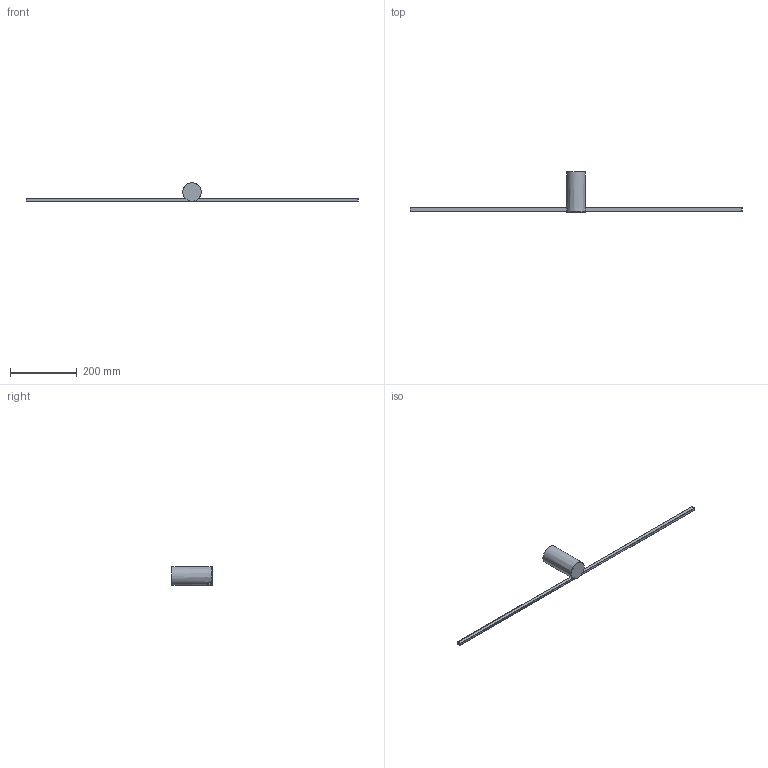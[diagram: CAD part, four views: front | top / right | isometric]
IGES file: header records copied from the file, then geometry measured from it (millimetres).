
Start section: SolidWorks IGES file using analytic representation for surfaces
Global section: file name: X:\PRODUKT\Modele 3D_WWW\_KOLEKCJE WWW\SPIN-LED\SPIN-LED-M-10370\SPIN-LED-M-10370.IGS; native system: SolidWorks 2021; preprocessor: SolidWorks 2021; author: gabriela.tworek; date: 221028.080653; units: millimetre
Bounding box: 994 x 120 x 55.05 mm (x, y, z)
Surface area: 108771.7 mm2 (no closed solid volume)
Topology: 0 solids, 0 shells, 48 faces, 213 edges, 211 vertices
Faces by surface type: bspline 46, revolution 2
